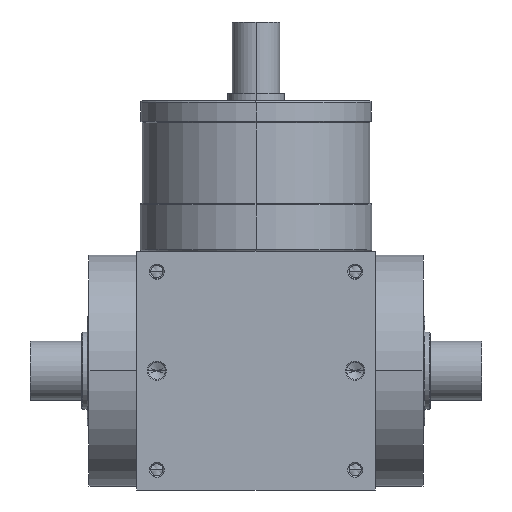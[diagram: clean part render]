
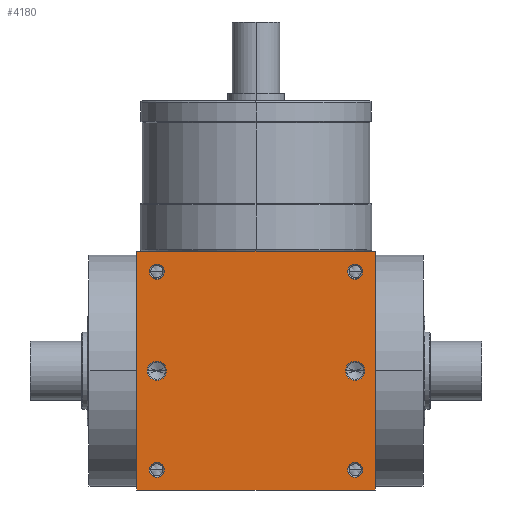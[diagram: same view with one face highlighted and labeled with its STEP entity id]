
A CAD part, front view. The second image highlights one B-rep face of the part: STEP entity #4180.
In plain terms, the highlighted planar face has unit normal (0, -1, 0).
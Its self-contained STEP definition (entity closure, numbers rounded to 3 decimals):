
#5=DIRECTION('',(1.,0.,0.));
#6=VECTOR('',#5,65.);
#7=CARTESIAN_POINT('',(-32.5,-32.5,-32.5));
#8=LINE('',#7,#6);
#155=DIRECTION('',(0.,0.,1.));
#156=VECTOR('',#155,65.);
#157=CARTESIAN_POINT('',(32.5,-32.5,-32.5));
#158=LINE('',#157,#156);
#209=DIRECTION('',(0.,0.,1.));
#210=VECTOR('',#209,65.);
#211=CARTESIAN_POINT('',(-32.5,-32.5,-32.5));
#212=LINE('',#211,#210);
#213=CARTESIAN_POINT('',(27.,-32.5,27.));
#214=DIRECTION('',(0.,1.,0.));
#215=DIRECTION('',(-1.,0.,0.));
#216=AXIS2_PLACEMENT_3D('',#213,#214,#215);
#218=CARTESIAN_POINT('',(27.,-32.5,27.));
#219=DIRECTION('',(0.,1.,0.));
#220=DIRECTION('',(1.,0.,0.));
#221=AXIS2_PLACEMENT_3D('',#218,#219,#220);
#223=CARTESIAN_POINT('',(-27.,-32.5,27.));
#224=DIRECTION('',(0.,1.,0.));
#225=DIRECTION('',(-1.,0.,0.));
#226=AXIS2_PLACEMENT_3D('',#223,#224,#225);
#228=CARTESIAN_POINT('',(-27.,-32.5,27.));
#229=DIRECTION('',(0.,1.,0.));
#230=DIRECTION('',(1.,0.,0.));
#231=AXIS2_PLACEMENT_3D('',#228,#229,#230);
#233=CARTESIAN_POINT('',(27.,-32.5,-27.));
#234=DIRECTION('',(0.,1.,0.));
#235=DIRECTION('',(-1.,0.,0.));
#236=AXIS2_PLACEMENT_3D('',#233,#234,#235);
#238=CARTESIAN_POINT('',(27.,-32.5,-27.));
#239=DIRECTION('',(0.,1.,0.));
#240=DIRECTION('',(1.,0.,0.));
#241=AXIS2_PLACEMENT_3D('',#238,#239,#240);
#243=CARTESIAN_POINT('',(-27.,-32.5,-27.));
#244=DIRECTION('',(0.,1.,0.));
#245=DIRECTION('',(-1.,0.,0.));
#246=AXIS2_PLACEMENT_3D('',#243,#244,#245);
#248=CARTESIAN_POINT('',(-27.,-32.5,-27.));
#249=DIRECTION('',(0.,1.,0.));
#250=DIRECTION('',(1.,0.,0.));
#251=AXIS2_PLACEMENT_3D('',#248,#249,#250);
#253=CARTESIAN_POINT('',(-27.,-32.5,0.));
#254=DIRECTION('',(0.,1.,0.));
#255=DIRECTION('',(1.,0.,0.));
#256=AXIS2_PLACEMENT_3D('',#253,#254,#255);
#258=CARTESIAN_POINT('',(-27.,-32.5,0.));
#259=DIRECTION('',(0.,1.,0.));
#260=DIRECTION('',(-1.,0.,0.));
#261=AXIS2_PLACEMENT_3D('',#258,#259,#260);
#263=CARTESIAN_POINT('',(27.,-32.5,0.));
#264=DIRECTION('',(0.,1.,0.));
#265=DIRECTION('',(1.,0.,0.));
#266=AXIS2_PLACEMENT_3D('',#263,#264,#265);
#268=CARTESIAN_POINT('',(27.,-32.5,0.));
#269=DIRECTION('',(0.,1.,0.));
#270=DIRECTION('',(-1.,0.,0.));
#271=AXIS2_PLACEMENT_3D('',#268,#269,#270);
#285=DIRECTION('',(1.,0.,0.));
#286=VECTOR('',#285,65.);
#287=CARTESIAN_POINT('',(-32.5,-32.5,32.5));
#288=LINE('',#287,#286);
#3346=CARTESIAN_POINT('',(-32.5,-32.5,-32.5));
#3348=VERTEX_POINT('',#3346);
#3349=CARTESIAN_POINT('',(32.5,-32.5,-32.5));
#3350=VERTEX_POINT('',#3349);
#3354=CARTESIAN_POINT('',(-32.5,-32.5,32.5));
#3356=VERTEX_POINT('',#3354);
#3357=CARTESIAN_POINT('',(32.5,-32.5,32.5));
#3358=VERTEX_POINT('',#3357);
#3513=CARTESIAN_POINT('',(24.95,-32.5,27.));
#3514=CARTESIAN_POINT('',(29.05,-32.5,27.));
#3515=VERTEX_POINT('',#3513);
#3516=VERTEX_POINT('',#3514);
#3521=CARTESIAN_POINT('',(-29.05,-32.5,27.));
#3522=CARTESIAN_POINT('',(-24.95,-32.5,27.));
#3523=VERTEX_POINT('',#3521);
#3524=VERTEX_POINT('',#3522);
#3529=CARTESIAN_POINT('',(24.95,-32.5,-27.));
#3530=CARTESIAN_POINT('',(29.05,-32.5,-27.));
#3531=VERTEX_POINT('',#3529);
#3532=VERTEX_POINT('',#3530);
#3537=CARTESIAN_POINT('',(-29.05,-32.5,-27.));
#3538=CARTESIAN_POINT('',(-24.95,-32.5,-27.));
#3539=VERTEX_POINT('',#3537);
#3540=VERTEX_POINT('',#3538);
#3861=CARTESIAN_POINT('',(-24.4,-32.5,0.));
#3862=CARTESIAN_POINT('',(-29.6,-32.5,0.));
#3863=VERTEX_POINT('',#3861);
#3864=VERTEX_POINT('',#3862);
#3869=CARTESIAN_POINT('',(29.6,-32.5,0.));
#3870=CARTESIAN_POINT('',(24.4,-32.5,0.));
#3871=VERTEX_POINT('',#3869);
#3872=VERTEX_POINT('',#3870);
#4132=CARTESIAN_POINT('',(-32.5,-32.5,-32.5));
#4133=DIRECTION('',(0.,-1.,0.));
#4134=DIRECTION('',(1.,0.,0.));
#4135=AXIS2_PLACEMENT_3D('',#4132,#4133,#4134);
#4136=PLANE('',#4135);
#4137=ORIENTED_EDGE('',*,*,#3972,.F.);
#4138=ORIENTED_EDGE('',*,*,#4015,.T.);
#4140=ORIENTED_EDGE('',*,*,#4139,.T.);
#4141=ORIENTED_EDGE('',*,*,#4094,.F.);
#4142=EDGE_LOOP('',(#4137,#4138,#4140,#4141));
#4143=FACE_OUTER_BOUND('',#4142,.F.);
#4145=ORIENTED_EDGE('',*,*,#4144,.F.);
#4147=ORIENTED_EDGE('',*,*,#4146,.F.);
#4148=EDGE_LOOP('',(#4145,#4147));
#4149=FACE_BOUND('',#4148,.F.);
#4151=ORIENTED_EDGE('',*,*,#4150,.F.);
#4153=ORIENTED_EDGE('',*,*,#4152,.F.);
#4154=EDGE_LOOP('',(#4151,#4153));
#4155=FACE_BOUND('',#4154,.F.);
#4157=ORIENTED_EDGE('',*,*,#4156,.F.);
#4159=ORIENTED_EDGE('',*,*,#4158,.F.);
#4160=EDGE_LOOP('',(#4157,#4159));
#4161=FACE_BOUND('',#4160,.F.);
#4163=ORIENTED_EDGE('',*,*,#4162,.F.);
#4165=ORIENTED_EDGE('',*,*,#4164,.F.);
#4166=EDGE_LOOP('',(#4163,#4165));
#4167=FACE_BOUND('',#4166,.F.);
#4169=ORIENTED_EDGE('',*,*,#4168,.F.);
#4171=ORIENTED_EDGE('',*,*,#4170,.F.);
#4172=EDGE_LOOP('',(#4169,#4171));
#4173=FACE_BOUND('',#4172,.F.);
#4175=ORIENTED_EDGE('',*,*,#4174,.F.);
#4177=ORIENTED_EDGE('',*,*,#4176,.F.);
#4178=EDGE_LOOP('',(#4175,#4177));
#4179=FACE_BOUND('',#4178,.F.);
#4180=ADVANCED_FACE('',(#4143,#4149,#4155,#4161,#4167,#4173,#4179),#4136,.T.);
#217=CIRCLE('',#216,2.05);
#222=CIRCLE('',#221,2.05);
#227=CIRCLE('',#226,2.05);
#232=CIRCLE('',#231,2.05);
#237=CIRCLE('',#236,2.05);
#242=CIRCLE('',#241,2.05);
#247=CIRCLE('',#246,2.05);
#252=CIRCLE('',#251,2.05);
#257=CIRCLE('',#256,2.6);
#262=CIRCLE('',#261,2.6);
#267=CIRCLE('',#266,2.6);
#272=CIRCLE('',#271,2.6);
#3972=EDGE_CURVE('',#3348,#3350,#8,.T.);
#4015=EDGE_CURVE('',#3348,#3356,#212,.T.);
#4094=EDGE_CURVE('',#3350,#3358,#158,.T.);
#4139=EDGE_CURVE('',#3356,#3358,#288,.T.);
#4144=EDGE_CURVE('',#3515,#3516,#217,.T.);
#4146=EDGE_CURVE('',#3516,#3515,#222,.T.);
#4150=EDGE_CURVE('',#3523,#3524,#227,.T.);
#4152=EDGE_CURVE('',#3524,#3523,#232,.T.);
#4156=EDGE_CURVE('',#3531,#3532,#237,.T.);
#4158=EDGE_CURVE('',#3532,#3531,#242,.T.);
#4162=EDGE_CURVE('',#3539,#3540,#247,.T.);
#4164=EDGE_CURVE('',#3540,#3539,#252,.T.);
#4168=EDGE_CURVE('',#3863,#3864,#257,.T.);
#4170=EDGE_CURVE('',#3864,#3863,#262,.T.);
#4174=EDGE_CURVE('',#3871,#3872,#267,.T.);
#4176=EDGE_CURVE('',#3872,#3871,#272,.T.);
